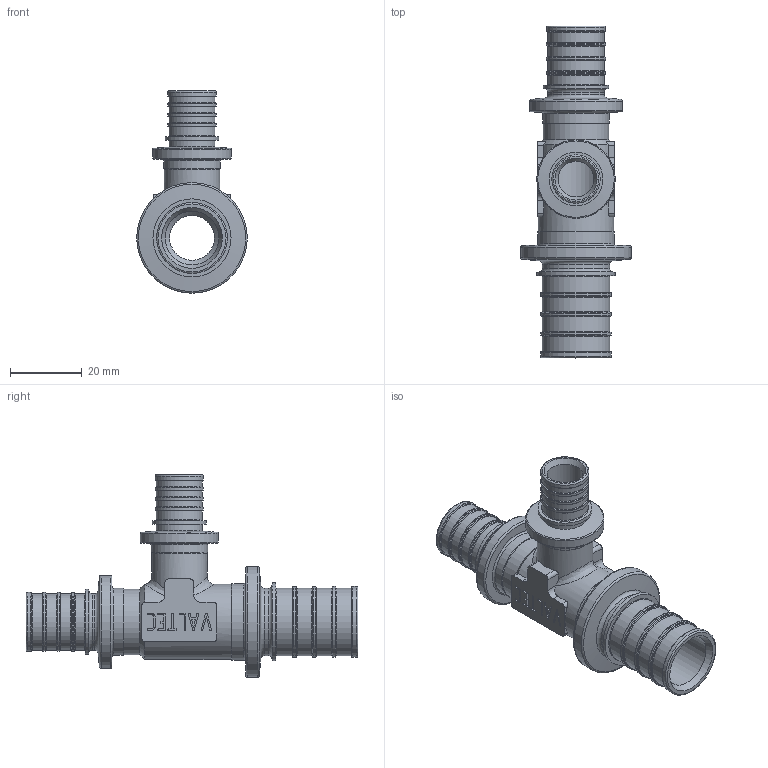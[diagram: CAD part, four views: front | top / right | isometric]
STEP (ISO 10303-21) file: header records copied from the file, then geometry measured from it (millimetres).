
FILE_DESCRIPTION(('STEP AP203'), '1');
FILE_NAME('覆.752241.015 - VTm.431.G.251620 秮鍣. 縺鳱', '', ('UNSPECIFIED'), ('UNSPECIFIED'), 'C3D Converter', 'C3D Toolkit', '');
FILE_SCHEMA(('CONFIG_CONTROL_DESIGN'));
Length unit declared in the file: millimetre
Products named in the file (1): ВР.752241.015
Bounding box: 30.9 x 92.7 x 56.55 mm (x, y, z)
Volume: 18233.3 mm3; surface area: 15050.6 mm2
Topology: 1 solids, 1 shells, 410 faces, 1033 edges, 662 vertices
Faces by surface type: extrusion 142, plane 138, cylinder 60, torus 54, cone 11, bspline 5
Full cylindrical faces by diameter (mm): 10 x1, 12.5 x1, 12.8 x5, 13.5 x4, 15 x2, 15.5 x1, 15.7 x5, 15.8 x1, 16.5 x4, 18.2 x1, 18.3 x1, 18.7 x1, 18.8 x5, 19.8 x4, 21 x1, 21.4 x1, 21.8 x1, 21.9 x1, 25.9 x1, 30.9 x1
Entity records: 16477 total; most frequent: CARTESIAN_POINT 4264, ORIENTED_EDGE 1852, DIRECTION 1436, EDGE_CURVE 926, VERTEX_POINT 662, VECTOR 582, EDGE_LOOP 558, B_SPLINE_CURVE_WITH_KNOTS 465
